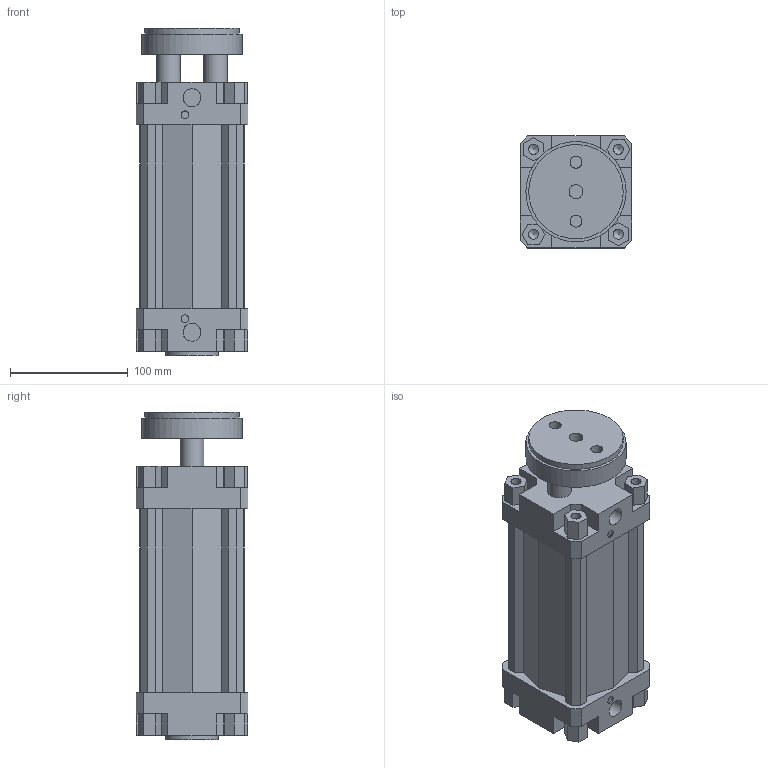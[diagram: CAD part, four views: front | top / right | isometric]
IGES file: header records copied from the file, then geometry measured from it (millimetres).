
Global section: file name: 132#_080_0100_01; native system: Autodesk Inventor 2014; preprocessor: unknown; author: A. Manieri; date: 20161006.162335; units: millimetre
Bounding box: 95 x 95 x 278 mm (x, y, z)
Volume: 1339734 mm3; surface area: 234466.4 mm2
Topology: 2 solids, 2 shells, 180 faces, 491 edges, 335 vertices
Faces by surface type: bspline 180
